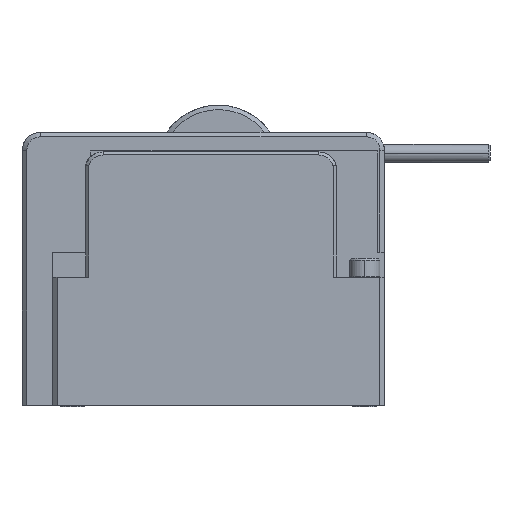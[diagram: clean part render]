
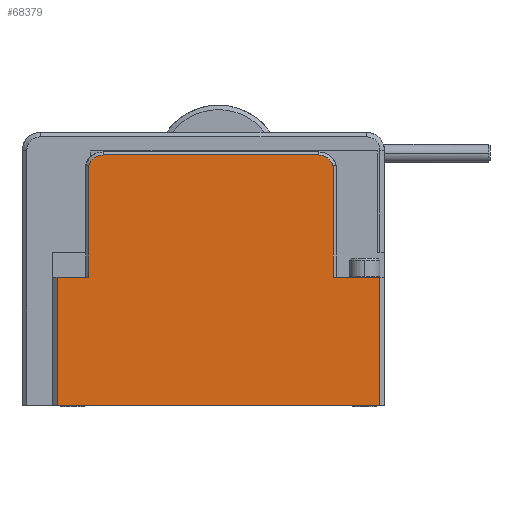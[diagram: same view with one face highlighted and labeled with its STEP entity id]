
A CAD part, left-side view. The second image highlights one B-rep face of the part: STEP entity #68379.
In plain terms, the highlighted planar face has unit normal (-1, 0, 0).
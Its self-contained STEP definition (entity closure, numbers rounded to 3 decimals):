
#2066=CARTESIAN_POINT('',(0.,88.191,35.5));
#2067=DIRECTION('',(1.,0.,0.));
#2068=DIRECTION('',(0.,0.954,0.3));
#2069=AXIS2_PLACEMENT_3D('',#2066,#2067,#2068);
#2071=DIRECTION('',(0.,-1.,0.));
#2072=VECTOR('',#2071,71.381);
#2073=CARTESIAN_POINT('',(0.,88.191,40.5));
#2074=LINE('',#2073,#2072);
#2075=CARTESIAN_POINT('',(0.,16.809,35.5));
#2076=DIRECTION('',(1.,0.,0.));
#2077=DIRECTION('',(0.,0.,1.));
#2078=AXIS2_PLACEMENT_3D('',#2075,#2076,#2077);
#2080=DIRECTION('',(0.,1.,0.));
#2081=VECTOR('',#2080,107.);
#2082=CARTESIAN_POINT('',(0.,-3.5,-42.5));
#2083=LINE('',#2082,#2081);
#2084=DIRECTION('',(0.,0.,1.));
#2085=VECTOR('',#2084,42.5);
#2086=CARTESIAN_POINT('',(0.,103.5,-42.5));
#2087=LINE('',#2086,#2085);
#2088=DIRECTION('',(0.,0.,1.));
#2089=VECTOR('',#2088,37.);
#2090=CARTESIAN_POINT('',(0.,93.,0.));
#2091=LINE('',#2090,#2089);
#2097=CARTESIAN_POINT('',(0.,92.96,37.));
#2099=DIRECTION('',(0.,1.,0.));
#2100=VECTOR('',#2099,0.04);
#2101=CARTESIAN_POINT('',(0.,92.96,37.));
#2102=LINE('',#2101,#2100);
#2172=DIRECTION('',(0.,1.,0.));
#2173=VECTOR('',#2172,10.5);
#2174=CARTESIAN_POINT('',(0.,93.,0.));
#2175=LINE('',#2174,#2173);
#36754=DIRECTION('',(0.,1.,0.));
#36755=VECTOR('',#36754,15.5);
#36756=CARTESIAN_POINT('',(0.,-3.5,0.));
#36757=LINE('',#36756,#36755);
#36772=DIRECTION('',(0.,0.,1.));
#36773=VECTOR('',#36772,42.5);
#36774=CARTESIAN_POINT('',(0.,-3.5,-42.5));
#36775=LINE('',#36774,#36773);
#36776=DIRECTION('',(0.,0.,1.));
#36777=VECTOR('',#36776,37.);
#36778=CARTESIAN_POINT('',(0.,12.,0.));
#36779=LINE('',#36778,#36777);
#36780=CARTESIAN_POINT('',(0.,12.04,37.));
#36791=DIRECTION('',(0.,1.,0.));
#36792=VECTOR('',#36791,0.04);
#36793=CARTESIAN_POINT('',(0.,12.,37.));
#36794=LINE('',#36793,#36792);
#52792=CARTESIAN_POINT('',(0.,-3.5,0.));
#52793=VERTEX_POINT('',#52792);
#52794=CARTESIAN_POINT('',(0.,103.5,0.));
#52796=VERTEX_POINT('',#52794);
#53818=CARTESIAN_POINT('',(0.,103.5,-42.5));
#53819=VERTEX_POINT('',#53818);
#53820=CARTESIAN_POINT('',(0.,-3.5,-42.5));
#53821=VERTEX_POINT('',#53820);
#61197=CARTESIAN_POINT('',(0.,93.,0.));
#61198=VERTEX_POINT('',#61197);
#61199=CARTESIAN_POINT('',(0.,12.,0.));
#61200=VERTEX_POINT('',#61199);
#61485=CARTESIAN_POINT('',(0.,93.,37.));
#61486=VERTEX_POINT('',#61485);
#61487=CARTESIAN_POINT('',(0.,12.,37.));
#61488=VERTEX_POINT('',#61487);
#62065=CARTESIAN_POINT('',(0.,88.191,40.5));
#62066=VERTEX_POINT('',#62065);
#62067=CARTESIAN_POINT('',(0.,16.809,40.5));
#62068=VERTEX_POINT('',#62067);
#63836=VERTEX_POINT('',#2097);
#63837=VERTEX_POINT('',#36780);
#68349=CARTESIAN_POINT('',(0.,105.,0.));
#68350=DIRECTION('',(-1.,0.,0.));
#68351=DIRECTION('',(0.,-1.,0.));
#68352=AXIS2_PLACEMENT_3D('',#68349,#68350,#68351);
#68353=PLANE('',#68352);
#68355=ORIENTED_EDGE('',*,*,#68354,.F.);
#68357=ORIENTED_EDGE('',*,*,#68356,.T.);
#68358=ORIENTED_EDGE('',*,*,#68339,.T.);
#68360=ORIENTED_EDGE('',*,*,#68359,.T.);
#68362=ORIENTED_EDGE('',*,*,#68361,.F.);
#68364=ORIENTED_EDGE('',*,*,#68363,.F.);
#68366=ORIENTED_EDGE('',*,*,#68365,.F.);
#68368=ORIENTED_EDGE('',*,*,#68367,.F.);
#68370=ORIENTED_EDGE('',*,*,#68369,.T.);
#68372=ORIENTED_EDGE('',*,*,#68371,.T.);
#68374=ORIENTED_EDGE('',*,*,#68373,.F.);
#68376=ORIENTED_EDGE('',*,*,#68375,.T.);
#68377=EDGE_LOOP('',(#68355,#68357,#68358,#68360,#68362,#68364,#68366,#68368,
#68370,#68372,#68374,#68376));
#68378=FACE_OUTER_BOUND('',#68377,.F.);
#68379=ADVANCED_FACE('',(#68378),#68353,.T.);
#2070=CIRCLE('',#2069,5.);
#2079=CIRCLE('',#2078,5.);
#68339=EDGE_CURVE('',#62066,#62068,#2074,.T.);
#68354=EDGE_CURVE('',#63836,#61486,#2102,.T.);
#68356=EDGE_CURVE('',#63836,#62066,#2070,.T.);
#68359=EDGE_CURVE('',#62068,#63837,#2079,.T.);
#68361=EDGE_CURVE('',#61488,#63837,#36794,.T.);
#68363=EDGE_CURVE('',#61200,#61488,#36779,.T.);
#68365=EDGE_CURVE('',#52793,#61200,#36757,.T.);
#68367=EDGE_CURVE('',#53821,#52793,#36775,.T.);
#68369=EDGE_CURVE('',#53821,#53819,#2083,.T.);
#68371=EDGE_CURVE('',#53819,#52796,#2087,.T.);
#68373=EDGE_CURVE('',#61198,#52796,#2175,.T.);
#68375=EDGE_CURVE('',#61198,#61486,#2091,.T.);
